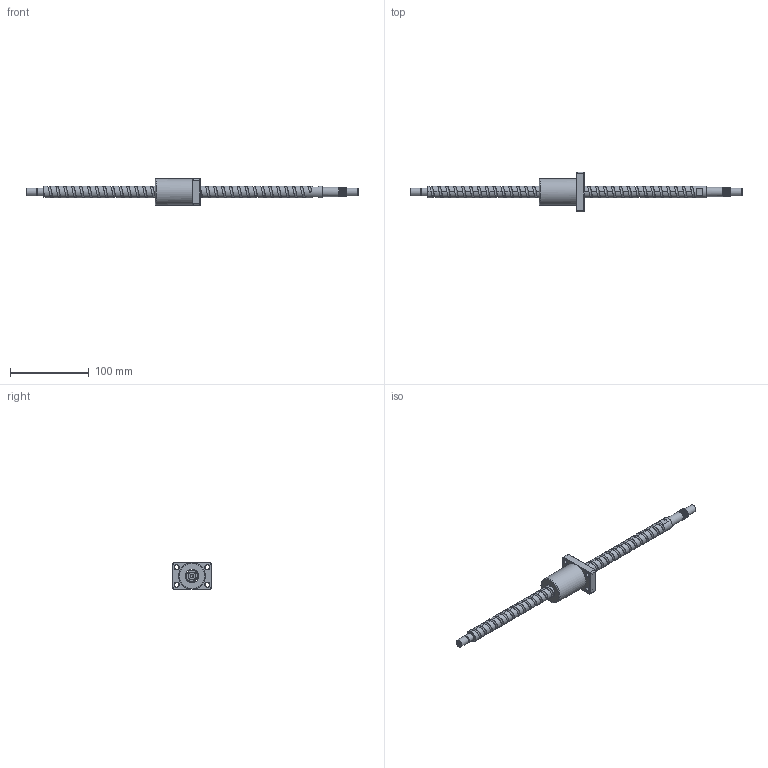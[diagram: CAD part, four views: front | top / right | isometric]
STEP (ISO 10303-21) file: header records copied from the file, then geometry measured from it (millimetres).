
FILE_DESCRIPTION (( 'STEP AP203' ), '1' );
FILE_NAME ('XSVR01510B1DGC5-421-P1.step', '2024-06-03T05:10:21', ( '' ), ( '' ), 'SwSTEP 2.0', 'SolidWorks 2022', '' );
FILE_SCHEMA (( 'CONFIG_CONTROL_DESIGN' ));
Length unit declared in the file: millimetre
Products named in the file (1): XSVR01510B1DGC5-421-P1
Bounding box: 421 x 50 x 34 mm (x, y, z)
Volume: 108341.8 mm3; surface area: 34622.2 mm2
Topology: 2 solids, 2 shells, 164 faces, 440 edges, 286 vertices
Faces by surface type: cylinder 87, plane 43, cone 15, bspline 10, torus 9
Full cylindrical faces by diameter (mm): 4 x1, 4.2 x15, 5 x6, 5.5 x4, 9.5 x4, 9.6 x1, 10 x3, 12 x9, 15 x34, 16.7 x1, 34 x1
Entity records: 18268 total; most frequent: CARTESIAN_POINT 16144, ORIENTED_EDGE 402, DIRECTION 391, EDGE_CURVE 201, AXIS2_PLACEMENT_3D 168, EDGE_LOOP 153, VERTEX_POINT 146, FACE_OUTER_BOUND 120
